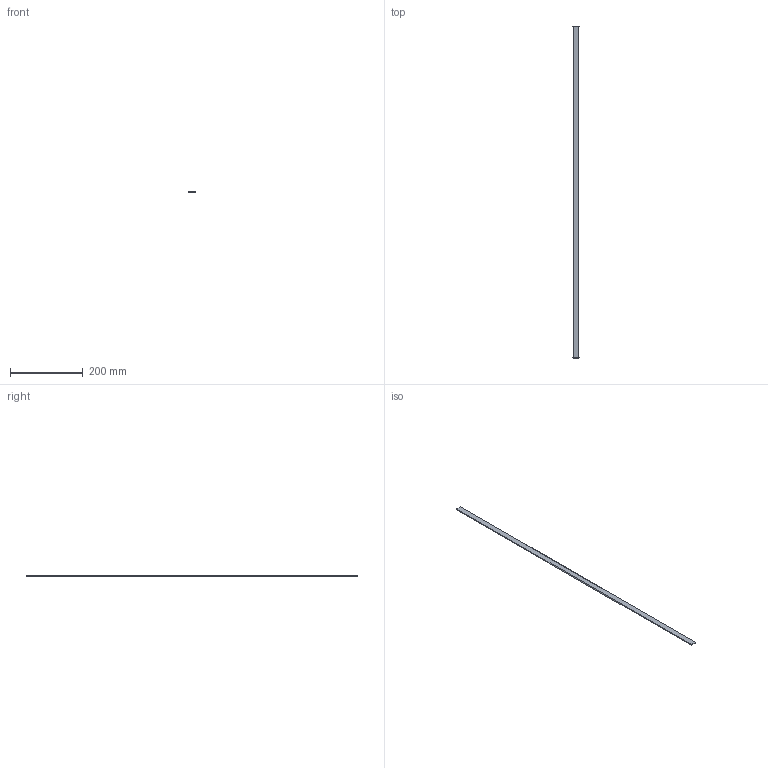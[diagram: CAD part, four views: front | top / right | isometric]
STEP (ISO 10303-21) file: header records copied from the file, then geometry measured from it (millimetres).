
FILE_DESCRIPTION(/* description */ (''),/* implementation_level */ '2;1');
FILE_NAME(/* name */ 'C:/Users/drich/Desktop/BM12 v1.step',/* time_stamp */ '2020-01-04T15:38:44-06:00',/* author */ (''),/* organization */ (''),/* preprocessor_version */ 'ST-DEVELOPER v18',/* originating_system */ 'Autodesk Translation Framework v8.12.0.6',/* authorisation */ '');
FILE_SCHEMA (('AUTOMOTIVE_DESIGN { 1 0 10303 214 3 1 1 }'));
Length unit declared in the file: inch
Products named in the file (1): BM12
Bounding box: 17.3 x 914.4 x 2.36 mm (x, y, z)
Volume: 36322.2 mm3; surface area: 34225.2 mm2
Topology: 1 solids, 1 shells, 6 faces, 12 edges, 8 vertices
Faces by surface type: plane 4, cylinder 2
Entity records: 202 total; most frequent: DIRECTION 30, CARTESIAN_POINT 27, ORIENTED_EDGE 24, EDGE_CURVE 12, AXIS2_PLACEMENT_3D 11, LINE 8, VECTOR 8, VERTEX_POINT 8
